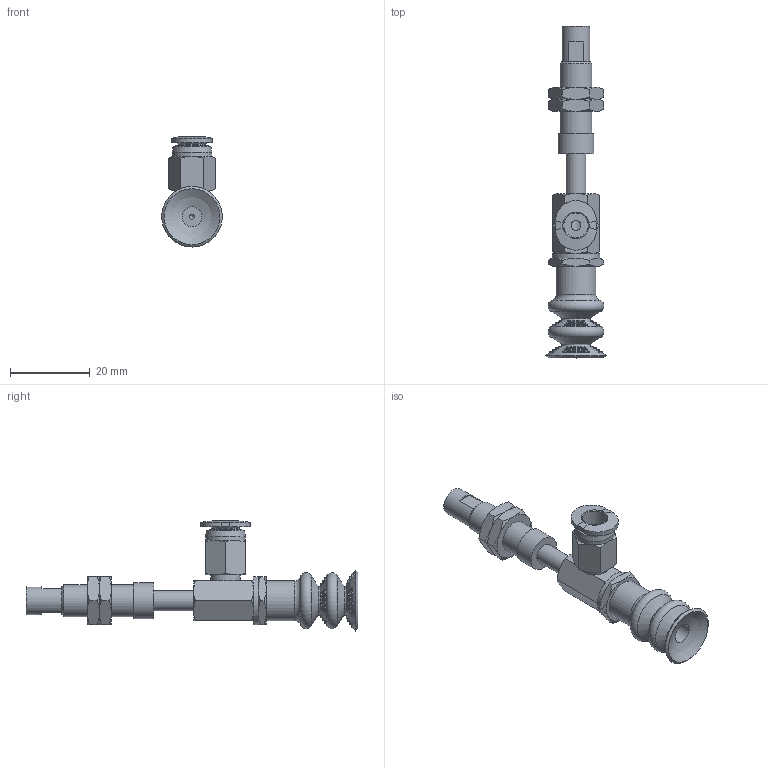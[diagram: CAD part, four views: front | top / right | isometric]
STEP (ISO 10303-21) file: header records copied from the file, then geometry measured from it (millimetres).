
FILE_DESCRIPTION(('STEP AP203'),'1');
FILE_NAME('-O.stp','2025-04-03T06:57:54',(' '),(' '),'Spatial InterOp 3D',' ',' ');
FILE_SCHEMA(('CONFIG_CONTROL_DESIGN'));
Length unit declared in the file: millimetre
Products named in the file (8): BNABPCYS-15-10-※-O; Adapter_napc-15-T; Connector_s-15-10; Nut napc_s-15-10; NAPCTS-15-10-FBODY; NAPCTS-15-10-MBODY; BPCG-15-※; PC-C_06-M5
Assembly tree (8 placements, depth 2):
  BNABPCYS-15-10-※-O
    Adapter_napc-15-T
    Connector_s-15-10
    Nut napc_s-15-10  x2
    NAPCTS-15-10-FBODY
    NAPCTS-15-10-MBODY
    BPCG-15-※
    PC-C_06-M5
Bounding box: 15.2 x 83.2 x 27.58 mm (x, y, z)
Volume: 5600.4 mm3; surface area: 6828.8 mm2
Topology: 7 solids, 10 shells, 288 faces, 801 edges, 511 vertices
Faces by surface type: cone 84, plane 75, sphere 58, torus 36, cylinder 28, bspline 4, revolution 3
Full cylindrical faces by diameter (mm): 1.25 x1, 4 x2, 4.134 x3, 5 x9, 7 x2, 7.188 x2, 7.4 x1, 8 x1, 8.2 x1, 9 x1, 10 x2, 12 x1
Entity records: 8275 total; most frequent: CARTESIAN_POINT 2477, DIRECTION 1165, ORIENTED_EDGE 998, AXIS2_PLACEMENT_3D 549, EDGE_CURVE 501, EDGE_LOOP 376, VERTEX_POINT 352, CIRCLE 281
